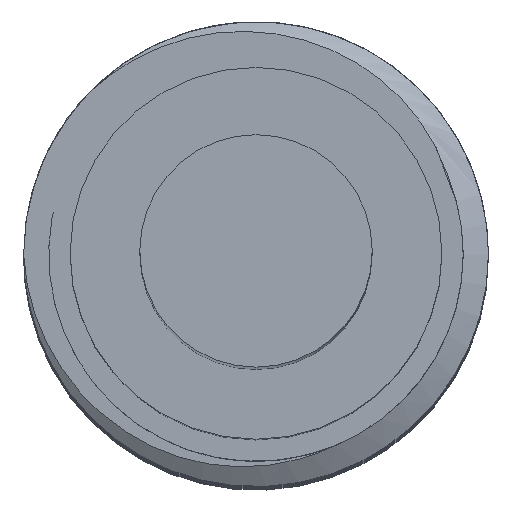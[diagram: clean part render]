
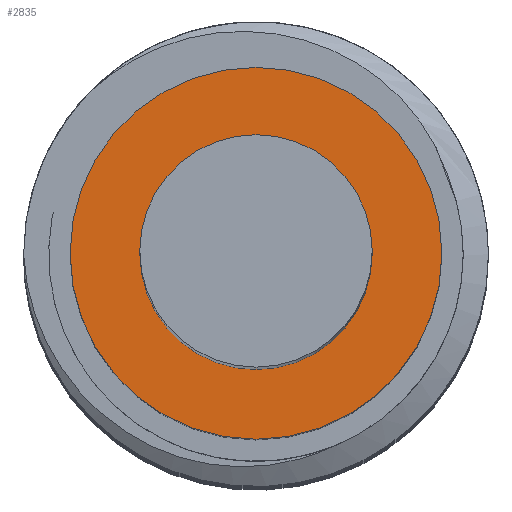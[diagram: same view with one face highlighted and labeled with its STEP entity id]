
A CAD part, top view. The second image highlights one B-rep face of the part: STEP entity #2835.
In plain terms, the highlighted planar face has unit normal (0, 0, 1).
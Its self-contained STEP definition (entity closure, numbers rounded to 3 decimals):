
#140 = ORIENTED_EDGE ( 'NONE', *, *, #1368, .T. ) ;
#217 = DIRECTION ( 'NONE',  ( 0., 0., 1. ) ) ;
#943 = CIRCLE ( 'NONE', #6615, 1.25 ) ;
#1033 = CARTESIAN_POINT ( 'NONE',  ( 0., 0., 28. ) ) ;
#1180 = EDGE_CURVE ( 'NONE', #8200, #7248, #3263, .T. ) ;
#1365 = VERTEX_POINT ( 'NONE', #5062 ) ;
#1368 = EDGE_CURVE ( 'NONE', #7248, #8200, #4868, .T. ) ;
#1491 = DIRECTION ( 'NONE',  ( 1., 0., 0. ) ) ;
#1739 = DIRECTION ( 'NONE',  ( 1., 0., 0. ) ) ;
#2177 = DIRECTION ( 'NONE',  ( 1., 0., 0. ) ) ;
#2205 = AXIS2_PLACEMENT_3D ( 'NONE', #1033, #5013, #1739 ) ;
#2287 = FACE_OUTER_BOUND ( 'NONE', #2731, .T. ) ;
#2731 = EDGE_LOOP ( 'NONE', ( #140, #6996 ) ) ;
#2835 = ADVANCED_FACE ( 'NONE', ( #3556, #2287 ), #3473, .T. ) ;
#2838 = CARTESIAN_POINT ( 'NONE',  ( 0., 0., 28. ) ) ;
#3263 = CIRCLE ( 'NONE', #5538, 2. ) ;
#3388 = EDGE_CURVE ( 'NONE', #5622, #1365, #7222, .T. ) ;
#3473 = PLANE ( 'NONE',  #8691 ) ;
#3556 = FACE_BOUND ( 'NONE', #6790, .T. ) ;
#3767 = ORIENTED_EDGE ( 'NONE', *, *, #3388, .F. ) ;
#4201 = CARTESIAN_POINT ( 'NONE',  ( 0., 0., 28. ) ) ;
#4868 = CIRCLE ( 'NONE', #2205, 2. ) ;
#5013 = DIRECTION ( 'NONE',  ( 0., 0., 1. ) ) ;
#5062 = CARTESIAN_POINT ( 'NONE',  ( 1.25, 0., 28. ) ) ;
#5467 = CARTESIAN_POINT ( 'NONE',  ( 0., 0., 28. ) ) ;
#5502 = DIRECTION ( 'NONE',  ( 1., 0., 0. ) ) ;
#5538 = AXIS2_PLACEMENT_3D ( 'NONE', #4201, #6178, #5502 ) ;
#5545 = DIRECTION ( 'NONE',  ( 0., 0., 1. ) ) ;
#5622 = VERTEX_POINT ( 'NONE', #7751 ) ;
#6153 = CARTESIAN_POINT ( 'NONE',  ( -2., 0., 28. ) ) ;
#6178 = DIRECTION ( 'NONE',  ( 0., 0., 1. ) ) ;
#6200 = CARTESIAN_POINT ( 'NONE',  ( 0., 0., 28. ) ) ;
#6475 = CARTESIAN_POINT ( 'NONE',  ( 2., 0., 28. ) ) ;
#6504 = AXIS2_PLACEMENT_3D ( 'NONE', #5467, #8360, #6995 ) ;
#6537 = EDGE_CURVE ( 'NONE', #1365, #5622, #943, .T. ) ;
#6615 = AXIS2_PLACEMENT_3D ( 'NONE', #2838, #5545, #2177 ) ;
#6790 = EDGE_LOOP ( 'NONE', ( #3767, #6889 ) ) ;
#6889 = ORIENTED_EDGE ( 'NONE', *, *, #6537, .F. ) ;
#6995 = DIRECTION ( 'NONE',  ( 1., 0., 0. ) ) ;
#6996 = ORIENTED_EDGE ( 'NONE', *, *, #1180, .T. ) ;
#7222 = CIRCLE ( 'NONE', #6504, 1.25 ) ;
#7248 = VERTEX_POINT ( 'NONE', #6153 ) ;
#7751 = CARTESIAN_POINT ( 'NONE',  ( -1.25, 0., 28. ) ) ;
#8200 = VERTEX_POINT ( 'NONE', #6475 ) ;
#8360 = DIRECTION ( 'NONE',  ( 0., 0., 1. ) ) ;
#8691 = AXIS2_PLACEMENT_3D ( 'NONE', #6200, #217, #1491 ) ;
